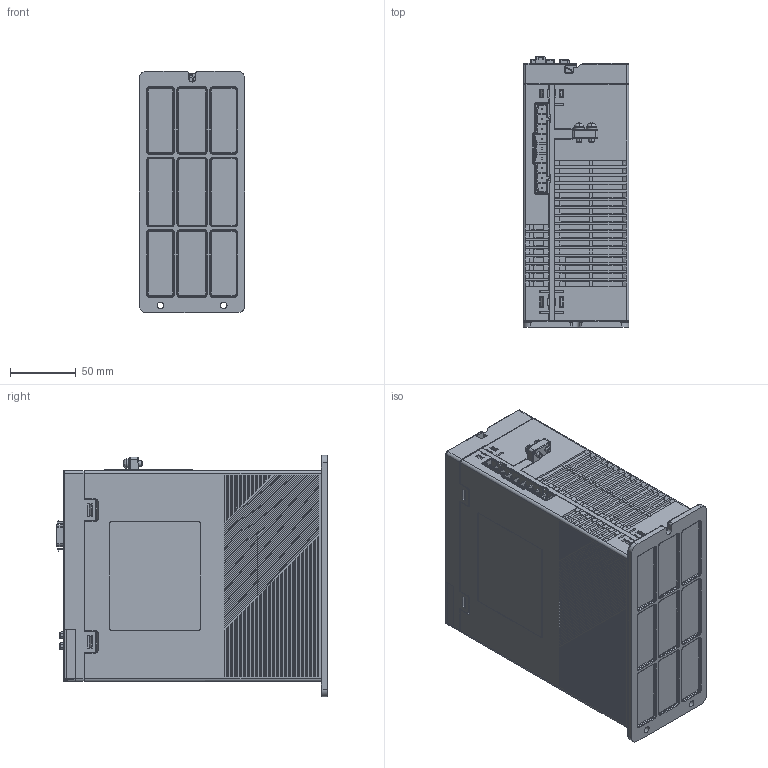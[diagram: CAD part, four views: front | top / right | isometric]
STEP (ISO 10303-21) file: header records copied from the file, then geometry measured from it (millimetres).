
FILE_DESCRIPTION((''),'2;1');
FILE_NAME('BD3-D_ASM_5_SW0002','2025-02-19T11:38:09',('qiaolun'),(''),'CREO PARAMETRIC BY PTC INC, 2021063','CREO PARAMETRIC BY PTC INC, 2021063','');
FILE_SCHEMA(('CONFIG_CONTROL_DESIGN'));
Products named in the file (1): BD3-D_ASM_5_SW0002
Bounding box: 80.13 x 205.23 x 183 mm (x, y, z)
Surface area: 215633.1 mm2 (no closed solid volume)
Topology: 0 solids, 0 shells, 7578 faces, 43366 edges, 43285 vertices
Faces by surface type: plane 5706, cylinder 1310, bspline 204, cone 185, torus 99, extrusion 50, sphere 20, revolution 4
Entity records: 580735 total; most frequent: CARTESIAN_POINT 164501, DIRECTION 75251, TRIMMED_CURVE 57977, VECTOR 55447, LINE 55397, DEFINITIONAL_REPRESENTATION 43232, PCURVE 43232, COMPOSITE_CURVE_SEGMENT 43232
